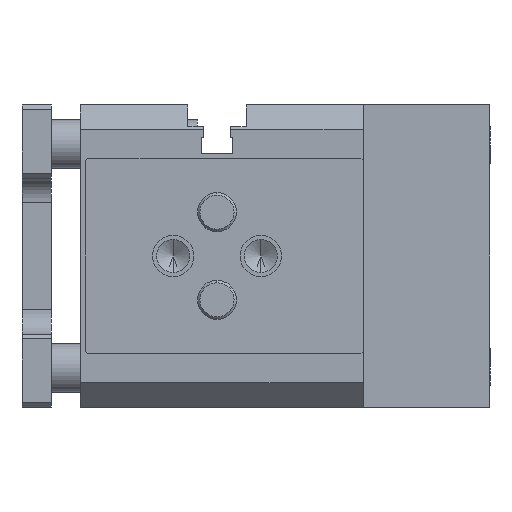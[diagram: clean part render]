
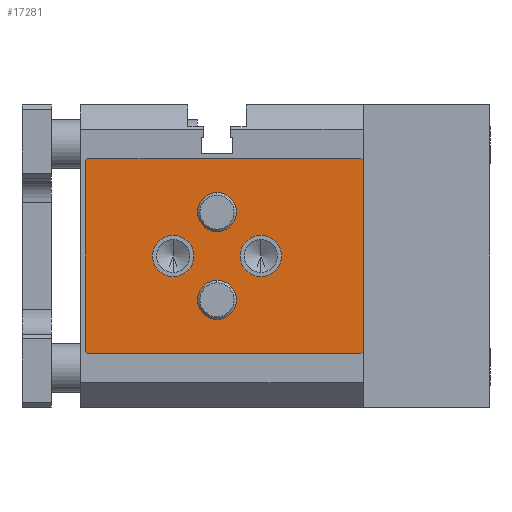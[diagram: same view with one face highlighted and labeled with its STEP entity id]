
A CAD part, left-side view. The second image highlights one B-rep face of the part: STEP entity #17281.
In plain terms, the highlighted planar face has unit normal (-1, 0, 0).
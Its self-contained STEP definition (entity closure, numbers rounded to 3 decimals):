
#1084 = CARTESIAN_POINT ( 'NONE',  ( 0., -9., 0. ) ) ;
#1400 = AXIS2_PLACEMENT_3D ( 'NONE', #19922, #46856, #23787 ) ;
#1418 = CIRCLE ( 'NONE', #34408, 4. ) ;
#1624 = CARTESIAN_POINT ( 'NONE',  ( 0., -1.5, -48. ) ) ;
#1634 = EDGE_CURVE ( 'NONE', #18122, #18422, #38130, .T. ) ;
#1649 = ORIENTED_EDGE ( 'NONE', *, *, #33511, .T. ) ;
#1818 = LINE ( 'NONE', #21012, #48152 ) ;
#1823 = LINE ( 'NONE', #24227, #21058 ) ;
#1854 = DIRECTION ( 'NONE',  ( 0., 0., -1. ) ) ;
#2129 = CARTESIAN_POINT ( 'NONE',  ( 0., -9., -4.25 ) ) ;
#2458 = CARTESIAN_POINT ( 'NONE',  ( 0., 26.5, -20. ) ) ;
#2921 = CARTESIAN_POINT ( 'NONE',  ( 0., 9., 0. ) ) ;
#3297 = CARTESIAN_POINT ( 'NONE',  ( 0., 9., -4.25 ) ) ;
#3920 = CARTESIAN_POINT ( 'NONE',  ( 0., 9., 0. ) ) ;
#4098 = CARTESIAN_POINT ( 'NONE',  ( 0., 27., -19.5 ) ) ;
#4699 = ORIENTED_EDGE ( 'NONE', *, *, #38587, .T. ) ;
#4952 = DIRECTION ( 'NONE',  ( 0., 0., 1. ) ) ;
#5487 = DIRECTION ( 'NONE',  ( -1., 0., 0. ) ) ;
#6220 = VERTEX_POINT ( 'NONE', #31112 ) ;
#6450 = CARTESIAN_POINT ( 'NONE',  ( 0., -30., 19.5 ) ) ;
#6547 = EDGE_CURVE ( 'NONE', #28588, #46192, #40982, .T. ) ;
#6773 = DIRECTION ( 'NONE',  ( 0., 0., 1. ) ) ;
#7371 = EDGE_CURVE ( 'NONE', #6220, #49894, #35534, .T. ) ;
#7532 = CIRCLE ( 'NONE', #35554, 4.25 ) ;
#7795 = DIRECTION ( 'NONE',  ( 0., 0., 1. ) ) ;
#8078 = EDGE_CURVE ( 'NONE', #12272, #28111, #18650, .T. ) ;
#8079 = EDGE_CURVE ( 'NONE', #46192, #18630, #1818, .T. ) ;
#8265 = VERTEX_POINT ( 'NONE', #22819 ) ;
#8266 = VERTEX_POINT ( 'NONE', #49762 ) ;
#11158 = LINE ( 'NONE', #14134, #31559 ) ;
#11537 = VECTOR ( 'NONE', #47774, 1000. ) ;
#12272 = VERTEX_POINT ( 'NONE', #34232 ) ;
#12423 = EDGE_CURVE ( 'NONE', #8266, #44023, #34081, .T. ) ;
#12450 = ORIENTED_EDGE ( 'NONE', *, *, #14324, .T. ) ;
#12460 = CARTESIAN_POINT ( 'NONE',  ( 0., 26.5, 20. ) ) ;
#12806 = DIRECTION ( 'NONE',  ( 1., 0., 0. ) ) ;
#12906 = DIRECTION ( 'NONE',  ( 0., -0.707, 0.707 ) ) ;
#13622 = ORIENTED_EDGE ( 'NONE', *, *, #8078, .T. ) ;
#13798 = CARTESIAN_POINT ( 'NONE',  ( 0., -29.5, -20. ) ) ;
#14134 = CARTESIAN_POINT ( 'NONE',  ( 0., 26.5, -20. ) ) ;
#14324 = EDGE_CURVE ( 'NONE', #15386, #8265, #7532, .T. ) ;
#14333 = ORIENTED_EDGE ( 'NONE', *, *, #22314, .T. ) ;
#14486 = DIRECTION ( 'NONE',  ( 1., 0., 0. ) ) ;
#15304 = AXIS2_PLACEMENT_3D ( 'NONE', #1624, #5487, #32356 ) ;
#15386 = VERTEX_POINT ( 'NONE', #3297 ) ;
#15459 = LINE ( 'NONE', #12460, #35918 ) ;
#15566 = ORIENTED_EDGE ( 'NONE', *, *, #12423, .T. ) ;
#15800 = EDGE_LOOP ( 'NONE', ( #20837, #13622 ) ) ;
#17153 = DIRECTION ( 'NONE',  ( 0., -0.707, -0.707 ) ) ;
#17281 = ADVANCED_FACE ( 'NONE', ( #34746, #43790, #24528, #33526, #23311 ), #24636, .T. ) ;
#18017 = EDGE_CURVE ( 'NONE', #18422, #20390, #15459, .T. ) ;
#18122 = VERTEX_POINT ( 'NONE', #44045 ) ;
#18422 = VERTEX_POINT ( 'NONE', #35258 ) ;
#18630 = VERTEX_POINT ( 'NONE', #2458 ) ;
#18650 = CIRCLE ( 'NONE', #41615, 4. ) ;
#18814 = EDGE_LOOP ( 'NONE', ( #20243, #33441 ) ) ;
#19692 = CARTESIAN_POINT ( 'NONE',  ( 0., 26.5, 20. ) ) ;
#19922 = CARTESIAN_POINT ( 'NONE',  ( 0., 0., 9. ) ) ;
#20243 = ORIENTED_EDGE ( 'NONE', *, *, #7371, .T. ) ;
#20390 = VERTEX_POINT ( 'NONE', #19692 ) ;
#20457 = CARTESIAN_POINT ( 'NONE',  ( 0., -29.5, -20. ) ) ;
#20544 = EDGE_CURVE ( 'NONE', #28111, #12272, #47322, .T. ) ;
#20837 = ORIENTED_EDGE ( 'NONE', *, *, #20544, .T. ) ;
#20856 = CARTESIAN_POINT ( 'NONE',  ( 0., 27., -19.5 ) ) ;
#21012 = CARTESIAN_POINT ( 'NONE',  ( 0., 27., -19.5 ) ) ;
#21058 = VECTOR ( 'NONE', #47287, 1000. ) ;
#21105 = DIRECTION ( 'NONE',  ( 1., 0., 0. ) ) ;
#21915 = AXIS2_PLACEMENT_3D ( 'NONE', #1084, #27945, #4952 ) ;
#21950 = CARTESIAN_POINT ( 'NONE',  ( 0., -30., -19.5 ) ) ;
#22314 = EDGE_CURVE ( 'NONE', #18630, #39628, #11158, .T. ) ;
#22819 = CARTESIAN_POINT ( 'NONE',  ( 0., 9., 4.25 ) ) ;
#23311 = FACE_BOUND ( 'NONE', #15800, .T. ) ;
#23366 = ORIENTED_EDGE ( 'NONE', *, *, #41042, .T. ) ;
#23787 = DIRECTION ( 'NONE',  ( 0., 0., -1. ) ) ;
#23961 = VECTOR ( 'NONE', #44044, 1000. ) ;
#24227 = CARTESIAN_POINT ( 'NONE',  ( 0., -30., -19.5 ) ) ;
#24508 = EDGE_LOOP ( 'NONE', ( #28185, #15566 ) ) ;
#24528 = FACE_BOUND ( 'NONE', #48838, .T. ) ;
#24636 = PLANE ( 'NONE',  #15304 ) ;
#24731 = CIRCLE ( 'NONE', #46793, 4.25 ) ;
#24869 = DIRECTION ( 'NONE',  ( 1., 0., 0. ) ) ;
#25892 = AXIS2_PLACEMENT_3D ( 'NONE', #3920, #30776, #7795 ) ;
#26371 = ORIENTED_EDGE ( 'NONE', *, *, #6547, .T. ) ;
#27945 = DIRECTION ( 'NONE',  ( 1., 0., 0. ) ) ;
#28053 = CARTESIAN_POINT ( 'NONE',  ( 0., 0., 5. ) ) ;
#28111 = VERTEX_POINT ( 'NONE', #35748 ) ;
#28185 = ORIENTED_EDGE ( 'NONE', *, *, #49815, .T. ) ;
#28588 = VERTEX_POINT ( 'NONE', #43593 ) ;
#29777 = DIRECTION ( 'NONE',  ( 1., 0., 0. ) ) ;
#30295 = VECTOR ( 'NONE', #48656, 1000. ) ;
#30776 = DIRECTION ( 'NONE',  ( 1., 0., 0. ) ) ;
#31112 = CARTESIAN_POINT ( 'NONE',  ( 0., -9., 4.25 ) ) ;
#31559 = VECTOR ( 'NONE', #44900, 1000. ) ;
#32356 = DIRECTION ( 'NONE',  ( 0., 0., 1. ) ) ;
#33441 = ORIENTED_EDGE ( 'NONE', *, *, #37436, .T. ) ;
#33511 = EDGE_CURVE ( 'NONE', #8265, #15386, #41763, .T. ) ;
#33526 = FACE_BOUND ( 'NONE', #18814, .T. ) ;
#34081 = CIRCLE ( 'NONE', #1400, 4. ) ;
#34232 = CARTESIAN_POINT ( 'NONE',  ( 0., 0., -5. ) ) ;
#34408 = AXIS2_PLACEMENT_3D ( 'NONE', #44162, #21105, #48041 ) ;
#34746 = FACE_BOUND ( 'NONE', #24508, .T. ) ;
#34927 = VERTEX_POINT ( 'NONE', #21950 ) ;
#35258 = CARTESIAN_POINT ( 'NONE',  ( 0., -29.5, 20. ) ) ;
#35393 = LINE ( 'NONE', #40171, #23961 ) ;
#35534 = CIRCLE ( 'NONE', #21915, 4.25 ) ;
#35554 = AXIS2_PLACEMENT_3D ( 'NONE', #2921, #29777, #6773 ) ;
#35748 = CARTESIAN_POINT ( 'NONE',  ( 0., 0., -13. ) ) ;
#35829 = CARTESIAN_POINT ( 'NONE',  ( 0., 0., -9. ) ) ;
#35918 = VECTOR ( 'NONE', #39335, 1000. ) ;
#37436 = EDGE_CURVE ( 'NONE', #49894, #6220, #24731, .T. ) ;
#37508 = CARTESIAN_POINT ( 'NONE',  ( 0., -9., 0. ) ) ;
#38130 = LINE ( 'NONE', #6450, #30295 ) ;
#38281 = AXIS2_PLACEMENT_3D ( 'NONE', #35829, #12806, #39697 ) ;
#38587 = EDGE_CURVE ( 'NONE', #34927, #18122, #1823, .T. ) ;
#39335 = DIRECTION ( 'NONE',  ( 0., 1., 0. ) ) ;
#39628 = VERTEX_POINT ( 'NONE', #13798 ) ;
#39697 = DIRECTION ( 'NONE',  ( 0., 0., -1. ) ) ;
#40171 = CARTESIAN_POINT ( 'NONE',  ( 0., 26.5, 20. ) ) ;
#40748 = ORIENTED_EDGE ( 'NONE', *, *, #1634, .T. ) ;
#40982 = LINE ( 'NONE', #20856, #11537 ) ;
#41042 = EDGE_CURVE ( 'NONE', #20390, #28588, #35393, .T. ) ;
#41117 = VECTOR ( 'NONE', #12906, 1000. ) ;
#41380 = DIRECTION ( 'NONE',  ( 0., 0., 1. ) ) ;
#41615 = AXIS2_PLACEMENT_3D ( 'NONE', #47945, #24869, #1854 ) ;
#41763 = CIRCLE ( 'NONE', #25892, 4.25 ) ;
#42589 = ORIENTED_EDGE ( 'NONE', *, *, #49764, .T. ) ;
#43222 = ORIENTED_EDGE ( 'NONE', *, *, #8079, .T. ) ;
#43542 = LINE ( 'NONE', #20457, #41117 ) ;
#43593 = CARTESIAN_POINT ( 'NONE',  ( 0., 27., 19.5 ) ) ;
#43758 = ORIENTED_EDGE ( 'NONE', *, *, #18017, .T. ) ;
#43790 = FACE_OUTER_BOUND ( 'NONE', #45236, .T. ) ;
#44023 = VERTEX_POINT ( 'NONE', #28053 ) ;
#44044 = DIRECTION ( 'NONE',  ( 0., 0.707, -0.707 ) ) ;
#44045 = CARTESIAN_POINT ( 'NONE',  ( 0., -30., 19.5 ) ) ;
#44162 = CARTESIAN_POINT ( 'NONE',  ( 0., 0., 9. ) ) ;
#44900 = DIRECTION ( 'NONE',  ( 0., -1., 0. ) ) ;
#45236 = EDGE_LOOP ( 'NONE', ( #23366, #26371, #43222, #14333, #42589, #4699, #40748, #43758 ) ) ;
#46192 = VERTEX_POINT ( 'NONE', #4098 ) ;
#46793 = AXIS2_PLACEMENT_3D ( 'NONE', #37508, #14486, #41380 ) ;
#46856 = DIRECTION ( 'NONE',  ( 1., 0., 0. ) ) ;
#47287 = DIRECTION ( 'NONE',  ( 0., 0., 1. ) ) ;
#47322 = CIRCLE ( 'NONE', #38281, 4. ) ;
#47774 = DIRECTION ( 'NONE',  ( 0., 0., -1. ) ) ;
#47945 = CARTESIAN_POINT ( 'NONE',  ( 0., 0., -9. ) ) ;
#48041 = DIRECTION ( 'NONE',  ( 0., 0., -1. ) ) ;
#48152 = VECTOR ( 'NONE', #17153, 1000. ) ;
#48656 = DIRECTION ( 'NONE',  ( 0., 0.707, 0.707 ) ) ;
#48838 = EDGE_LOOP ( 'NONE', ( #1649, #12450 ) ) ;
#49762 = CARTESIAN_POINT ( 'NONE',  ( 0., 0., 13. ) ) ;
#49764 = EDGE_CURVE ( 'NONE', #39628, #34927, #43542, .T. ) ;
#49815 = EDGE_CURVE ( 'NONE', #44023, #8266, #1418, .T. ) ;
#49894 = VERTEX_POINT ( 'NONE', #2129 ) ;
